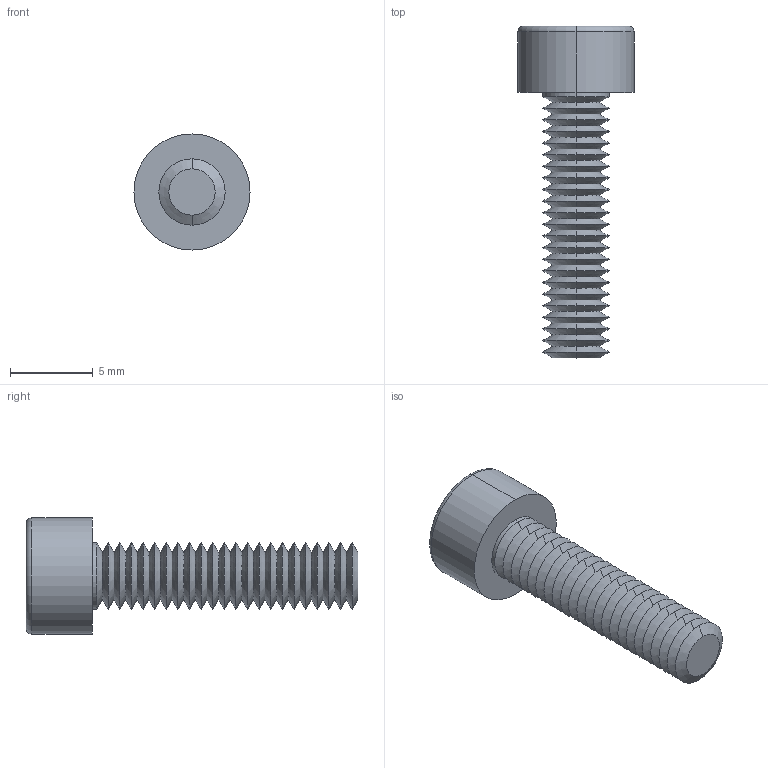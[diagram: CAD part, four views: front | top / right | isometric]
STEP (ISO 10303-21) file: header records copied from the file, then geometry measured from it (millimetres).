
FILE_DESCRIPTION (( 'STEP AP203' ), '1' );
FILE_NAME ('91N.040.0160.step', '2025-05-20T08:51:04', ( '' ), ( '' ), 'SwSTEP 2.0', 'SolidWorks 2019', '' );
FILE_SCHEMA (( 'CONFIG_CONTROL_DESIGN' ));
Length unit declared in the file: millimetre
Products named in the file (1): 91N.040.0160
Bounding box: 7 x 20 x 7 mm (x, y, z)
Volume: 275 mm3; surface area: 526 mm2
Topology: 1 solids, 1 shells, 120 faces, 239 edges, 121 vertices
Faces by surface type: cone 99, plane 15, cylinder 4, torus 2
Entity records: 3078 total; most frequent: DIRECTION 587, CARTESIAN_POINT 506, ORIENTED_EDGE 474, EDGE_CURVE 237, AXIS2_PLACEMENT_3D 236, EDGE_LOOP 122, VERTEX_POINT 121, ADVANCED_FACE 120
